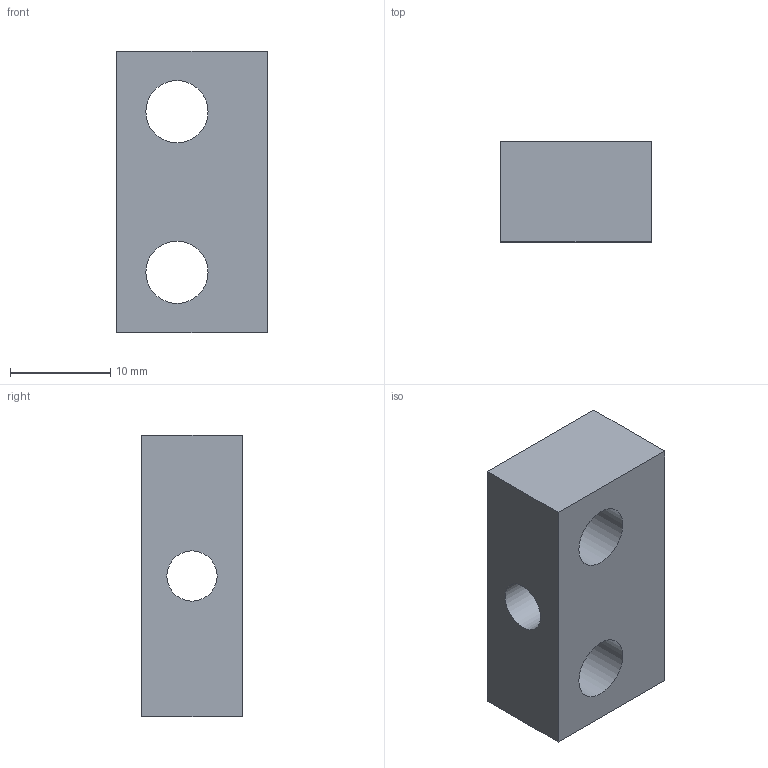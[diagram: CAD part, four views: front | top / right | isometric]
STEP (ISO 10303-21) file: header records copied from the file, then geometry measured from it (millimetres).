
FILE_DESCRIPTION(/* description */ (''),/* implementation_level */ '2;1');
FILE_NAME(/* name */ '011_FIXING_BLOCK.stp',/* time_stamp */ '2019-07-18T15:41:14+02:00',/* author */ (''),/* organization */ (''),/* preprocessor_version */ 'ST-DEVELOPER v16.7',/* originating_system */ 'SIEMENS PLM Software NX 12.0',/* authorisation */ '');
FILE_SCHEMA (('AUTOMOTIVE_DESIGN { 1 0 10303 214 3 1 1 1 }'));
Length unit declared in the file: millimetre
Products named in the file (1): bez0D28BFECq48c
Bounding box: 15 x 10 x 28 mm (x, y, z)
Volume: 3301.7 mm3; surface area: 2165.1 mm2
Topology: 1 solids, 1 shells, 9 faces, 22 edges, 15 vertices
Faces by surface type: plane 6, cylinder 3
Full cylindrical faces by diameter (mm): 5 x1, 6.2 x2
Entity records: 290 total; most frequent: DIRECTION 44, CARTESIAN_POINT 42, ORIENTED_EDGE 36, EDGE_LOOP 18, EDGE_CURVE 18, FACE_BOUND 16, AXIS2_PLACEMENT_3D 16, VERTEX_POINT 14
